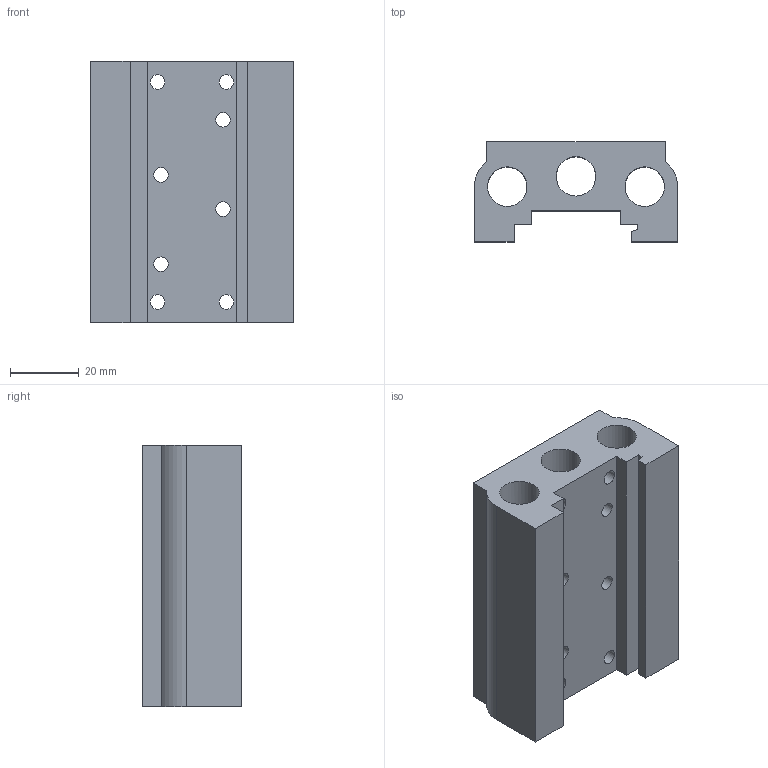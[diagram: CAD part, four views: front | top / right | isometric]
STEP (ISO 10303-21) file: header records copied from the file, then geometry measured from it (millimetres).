
FILE_DESCRIPTION((''),'2;1');
FILE_NAME('K:\A-Roberto\_Inventor\Rev.Librerie\TECNOECO\T488_ ##\T488_ 02.stp','2006-10-06T08:54:19',('rivolro1'),(''),'Autodesk Inventor 11','Autodesk Inventor 11','');
FILE_SCHEMA(('AUTOMOTIVE_DESIGN { 1 0 10303 214 1 1 1 1 }'));
Length unit declared in the file: millimetre
Products named in the file (1): T488_ 02
Bounding box: 59 x 29 x 76 mm (x, y, z)
Volume: 75842.7 mm3; surface area: 28009.1 mm2
Topology: 1 solids, 1 shells, 73 faces, 173 edges, 114 vertices
Faces by surface type: bspline 50, plane 18, cylinder 5
Full cylindrical faces by diameter (mm): 11.5 x3
Entity records: 2879 total; most frequent: CARTESIAN_POINT 1436, ORIENTED_EDGE 256, DIRECTION 234, EDGE_LOOP 156, EDGE_CURVE 128, VERTEX_POINT 106, AXIS2_PLACEMENT_3D 92, FACE_BOUND 83
